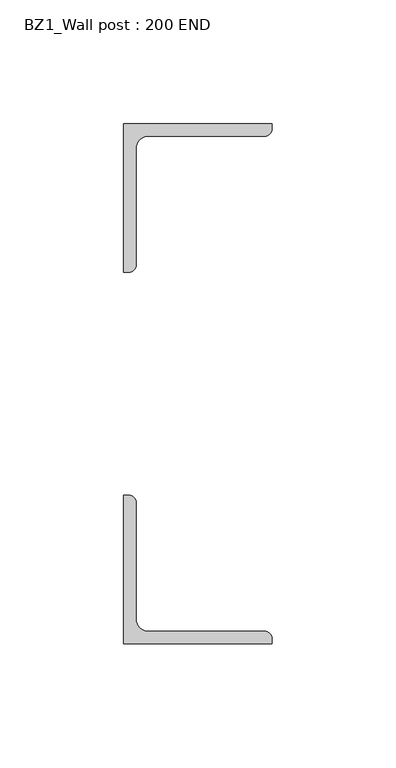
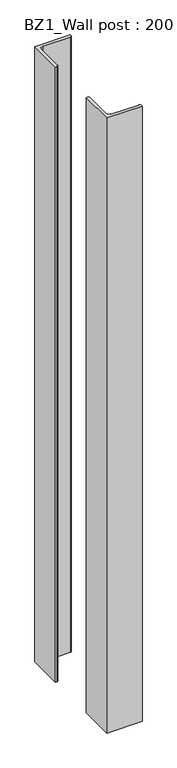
"""IFC4 building model written with IfcOpenShell, lengths in millimetres: beam geometry, BZ1_Wall post : 200 END."""

from ifc_helpers import new_model, si_unit, point, frame_2d, origin, origin_with_axes, place, context, project, spatial, polyline, circle_curve, trimmed, segment, composite_curve, outline, extrude, source, transform, mapped, element, save


def bz1_wall_post_200_end_6934bf96(model_context):
    return source(origin(), model_context, "Body", "SweptSolid", [
        extrude(outline(composite_curve([segment(polyline([(0.0, -45.0), (2.0, -45.0)]), True, "CONTINUOUS"), segment(trimmed(circle_curve(frame_2d((2.0, -48.0)), 3.0), [point((2.0, -45.0))], [point((5.0, -48.0))], False, "CARTESIAN"), True, "CONTINUOUS"), segment(polyline([(5.0, -48.0), (5.0, -95.0)]), True, "CONTINUOUS"), segment(trimmed(circle_curve(frame_2d((10.0, -95.0)), 5.0), [point((5.0, -95.0))], [point((10.0, -100.0))], True, "CARTESIAN"), True, "CONTINUOUS"), segment(polyline([(10.0, -100.0), (57.0, -100.0)]), True, "CONTINUOUS"), segment(trimmed(circle_curve(frame_2d((57.0, -103.0)), 3.0), [point((57.0, -100.0))], [point((60.0, -103.0))], False, "CARTESIAN"), True, "CONTINUOUS"), segment(polyline([(60.0, -103.0), (60.0, -105.0), (0.0, -105.0), (0.0, -45.0)]), True, "CONTINUOUS")], self_intersect=False)), origin_with_axes(), (0.0, 0.0, 1.0), 1100.0),
        extrude(outline(composite_curve([segment(polyline([(0.0, 45.0), (0.0, 105.0), (60.0, 105.0), (60.0, 103.0)]), True, "CONTINUOUS"), segment(trimmed(circle_curve(frame_2d((57.0, 103.0)), 3.0), [point((60.0, 103.0))], [point((57.0, 100.0))], False, "CARTESIAN"), True, "CONTINUOUS"), segment(polyline([(57.0, 100.0), (10.0, 100.0)]), True, "CONTINUOUS"), segment(trimmed(circle_curve(frame_2d((10.0, 95.0)), 5.0), [point((10.0, 100.0))], [point((5.0, 95.0))], True, "CARTESIAN"), True, "CONTINUOUS"), segment(polyline([(5.0, 95.0), (5.0, 48.0)]), True, "CONTINUOUS"), segment(trimmed(circle_curve(frame_2d((2.0, 48.0)), 3.0), [point((5.0, 48.0))], [point((2.0, 45.0))], False, "CARTESIAN"), True, "CONTINUOUS"), segment(polyline([(2.0, 45.0), (0.0, 45.0)]), True, "CONTINUOUS")], self_intersect=False)), origin_with_axes(), (0.0, 0.0, 1.0), 1100.0),
    ])


if __name__ == "__main__":
    model = new_model("IFC4")
    model_context = context("Model", 3, world=origin())
    ifc_project = project(units=[si_unit("LENGTHUNIT", "METRE", prefix="MILLI")], contexts=[model_context])
    site = spatial("IfcSite", under=ifc_project)
    building = spatial("IfcBuilding", under=site)
    placement = place(None, origin())
    bz1_wall_post_200_end_shape = bz1_wall_post_200_end_6934bf96(model_context)
    element("IfcBeam", 1, ObjectType="BZ1_Wall post : 200 END", at=placement, inside=building, context=model_context, shape_type="MappedRepresentation", body=[
        mapped(bz1_wall_post_200_end_shape, transform((0.0, 0.0, 0.0), x_axis=(1.0, 0.0, 0.0), y_axis=(0.0, 1.0, 0.0), z_axis=(0.0, 0.0, 1.0))),
    ])
    save(model, "model.ifc")
